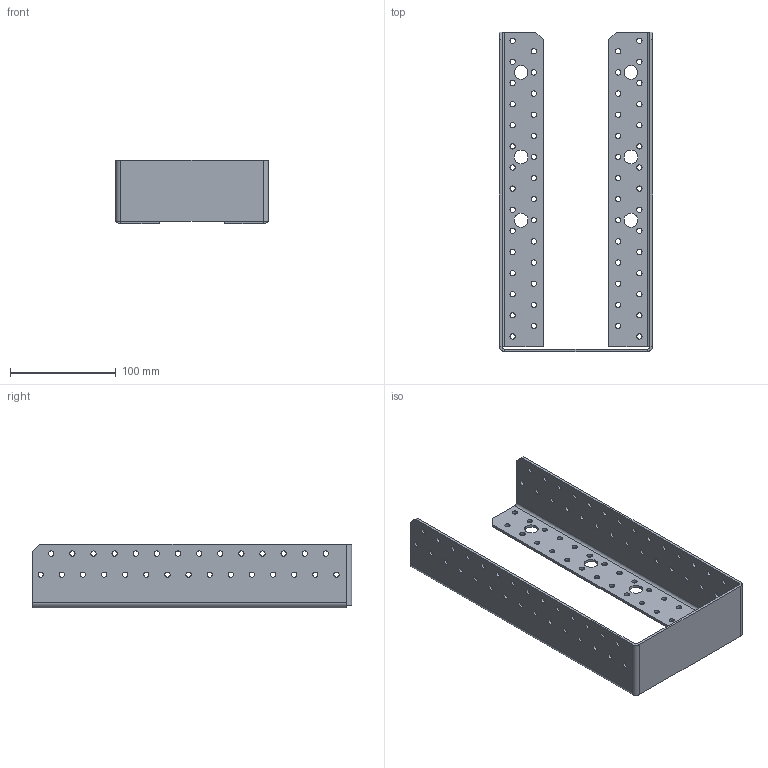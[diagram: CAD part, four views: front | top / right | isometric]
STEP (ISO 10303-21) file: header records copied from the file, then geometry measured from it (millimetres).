
FILE_DESCRIPTION (( 'STEP AP203' ), '1' );
FILE_NAME ('40511IKO.STEP', '2021-04-16T08:28:04', ( '' ), ( '' ), 'SwSTEP 2.0', 'SolidWorks 2013', '' );
FILE_SCHEMA (( 'CONFIG_CONTROL_DESIGN' ));
Length unit declared in the file: millimetre
Products named in the file (1): 40511IKO
Bounding box: 145 x 302.5 x 60.5 mm (x, y, z)
Volume: 158965.2 mm3; surface area: 136699.1 mm2
Topology: 1 solids, 1 shells, 288 faces, 828 edges, 542 vertices
Faces by surface type: cylinder 252, plane 36
Entity records: 10263 total; most frequent: DIRECTION 1912, CARTESIAN_POINT 1659, ORIENTED_EDGE 1656, EDGE_CURVE 828, AXIS2_PLACEMENT_3D 795, VERTEX_POINT 542, EDGE_LOOP 532, CIRCLE 506
